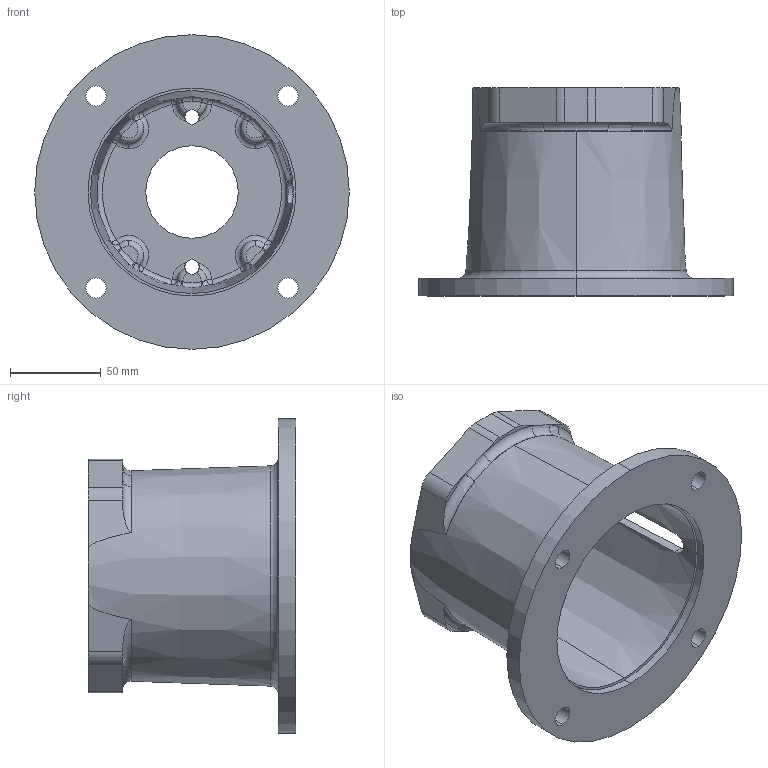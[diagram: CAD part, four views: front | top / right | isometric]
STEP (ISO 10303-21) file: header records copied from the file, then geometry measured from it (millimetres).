
FILE_DESCRIPTION (( 'STEP AP203' ), '1' );
FILE_NAME ('M056452AA.STEP', '2008-05-16T19:22:09', ( 'Chris McCoy' ), ( 'Magnaloy Coupling Co' ), 'SwSTEP 2.0', 'SolidWorks 2008', '' );
FILE_SCHEMA (( 'CONFIG_CONTROL_DESIGN' ));
Length unit declared in the file: inch
Products named in the file (1): M056452AA
Bounding box: 172.97 x 114.3 x 172.97 mm (x, y, z)
Volume: 392439 mm3; surface area: 124216.2 mm2
Topology: 1 solids, 1 shells, 204 faces, 520 edges, 307 vertices
Faces by surface type: torus 59, cylinder 40, bspline 40, plane 29, sphere 24, cone 12
Entity records: 8041 total; most frequent: CARTESIAN_POINT 3208, DIRECTION 1040, ORIENTED_EDGE 1016, EDGE_CURVE 508, AXIS2_PLACEMENT_3D 479, CIRCLE 314, VERTEX_POINT 307, EDGE_LOOP 221
